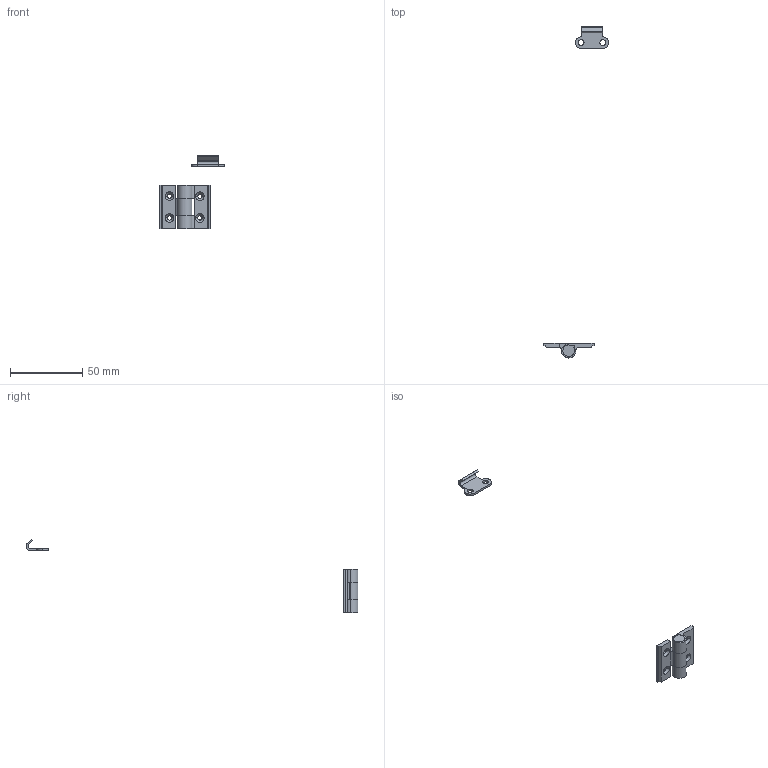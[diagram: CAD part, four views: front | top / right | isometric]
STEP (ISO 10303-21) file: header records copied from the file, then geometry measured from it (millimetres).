
FILE_DESCRIPTION((''),'2;1');
FILE_NAME('6871.06.stp','2014-08-27T08:52:25',(''),(''),'Mechanical Desktop 2006','Mechanical Desktop 2006',', , ');
FILE_SCHEMA(('CONFIG_CONTROL_DESIGN'));
Length unit declared in the file: millimetre
Products named in the file (6): 6871.06; GEGENHAKEN14; ~TEIL1; TEIL1; TEIL2; TEIL3
Assembly tree (5 placements, depth 3):
  6871.06
    GEGENHAKEN14
      ~TEIL1
    TEIL1
    TEIL2
    TEIL3
Bounding box: 45.08 x 229.26 x 50.84 mm (x, y, z)
Volume: 4877 mm3; surface area: 5454.7 mm2
Topology: 4 solids, 4 shells, 106 faces, 286 edges, 176 vertices
Faces by surface type: cylinder 55, plane 31, sphere 12, cone 8
Entity records: 3655 total; most frequent: CARTESIAN_POINT 764, DIRECTION 620, ORIENTED_EDGE 548, EDGE_CURVE 274, AXIS2_PLACEMENT_3D 242, VERTEX_POINT 176, VECTOR 136, LINE 136
